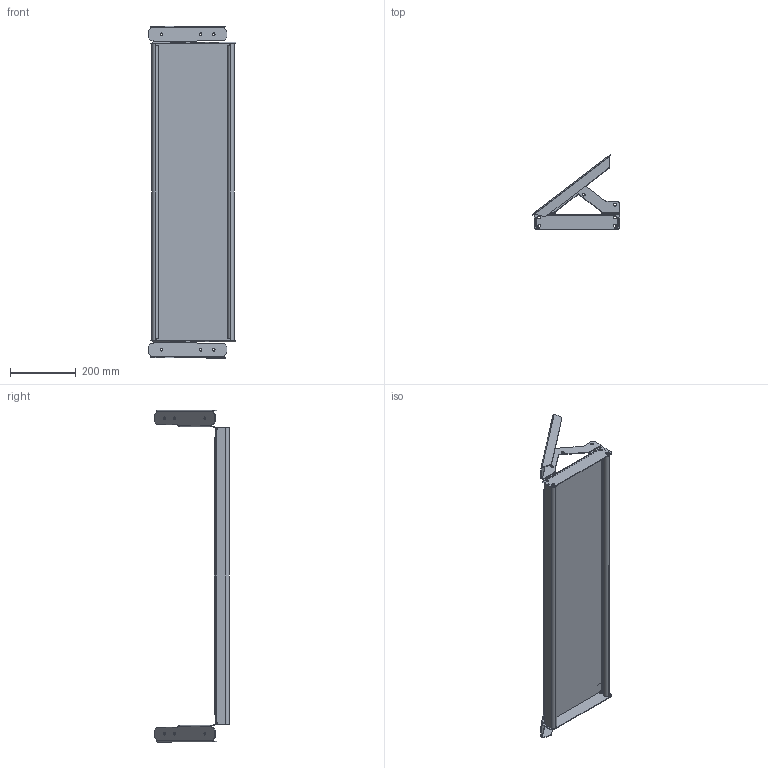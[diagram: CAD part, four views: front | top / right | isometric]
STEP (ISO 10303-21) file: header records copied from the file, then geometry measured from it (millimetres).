
FILE_DESCRIPTION (( 'STEP AP214' ), '1' );
FILE_NAME ('OPTIMO-Tread-Build-Achil-Visual-O2-900x250x45x2-st240-F130110101-plain.STEP', '2021-08-09T07:14:08', ( '' ), ( '' ), 'SwSTEP 2.0', 'SolidWorks 2021', '' );
FILE_SCHEMA (( 'AUTOMOTIVE_DESIGN' ));
Length unit declared in the file: millimetre
Products named in the file (4): Tread-plank-achil-O2-visual-st240-900x250x45x2-C210070100_plain; End-profile-left-st240-C210250100; End-profile-right-st240-C210260100; OPTIMO-Tread-Build-Achil-Visual-O2-900x250x45x2-st240-F130110101-plain
Assembly tree (3 placements, depth 2):
  OPTIMO-Tread-Build-Achil-Visual-O2-900x250x45x2-st240-F130110101-plain
    Tread-plank-achil-O2-visual-st240-900x250x45x2-C210070100_plain
    End-profile-left-st240-C210250100
    End-profile-right-st240-C210260100
Bounding box: 266.25 x 226.42 x 1008.03 mm (x, y, z)
Volume: 1449499.2 mm3; surface area: 923833 mm2
Topology: 3 solids, 3 shells, 503 faces, 1320 edges, 844 vertices
Faces by surface type: plane 282, cylinder 142, bspline 79
Entity records: 19296 total; most frequent: CARTESIAN_POINT 7110, ORIENTED_EDGE 2640, DIRECTION 2232, EDGE_CURVE 1320, LINE 852, VECTOR 852, VERTEX_POINT 844, AXIS2_PLACEMENT_3D 690
